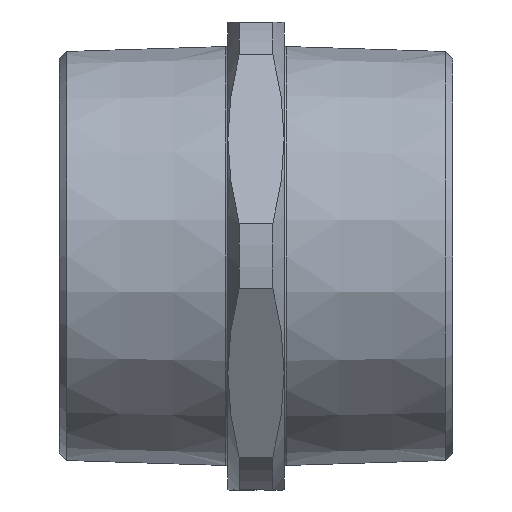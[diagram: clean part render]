
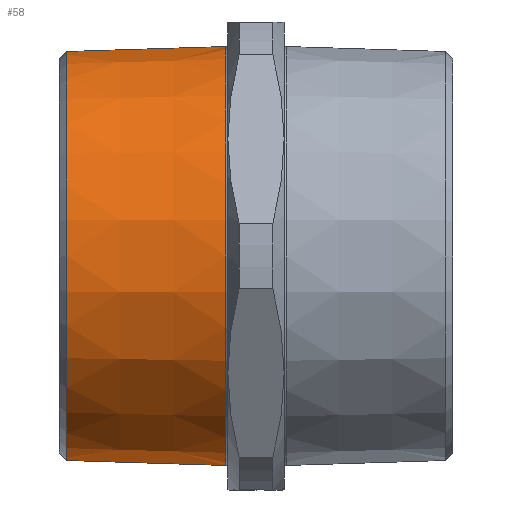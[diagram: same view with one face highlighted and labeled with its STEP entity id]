
A CAD part, front view. The second image highlights one B-rep face of the part: STEP entity #58.
In plain terms, the highlighted conical face has half-angle 1.79 degrees and reference radius 43.696 mm.
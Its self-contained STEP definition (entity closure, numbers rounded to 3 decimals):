
#58 = ADVANCED_FACE ( 'NONE', ( #1388 ), #1446, .T. ) ;
#106 = CARTESIAN_POINT ( 'NONE',  ( -82.4, 0., 43.696 ) ) ;
#123 = CARTESIAN_POINT ( 'NONE',  ( -48.484, 0., 44.756 ) ) ;
#250 = ORIENTED_EDGE ( 'NONE', *, *, #1091, .T. ) ;
#252 = ORIENTED_EDGE ( 'NONE', *, *, #1141, .T. ) ;
#253 = ORIENTED_EDGE ( 'NONE', *, *, #1112, .F. ) ;
#257 = ORIENTED_EDGE ( 'NONE', *, *, #1113, .T. ) ;
#340 = CARTESIAN_POINT ( 'NONE',  ( -48.484, 0., -44.756 ) ) ;
#343 = CARTESIAN_POINT ( 'NONE',  ( -82.4, 0., -43.696 ) ) ;
#364 = CARTESIAN_POINT ( 'NONE',  ( -82.4, 0., 0. ) ) ;
#368 = DIRECTION ( 'NONE',  ( 1., 0., 0. ) ) ;
#372 = DIRECTION ( 'NONE',  ( 0., 0., -1. ) ) ;
#735 = DIRECTION ( 'NONE',  ( 0., 0., -1. ) ) ;
#736 = DIRECTION ( 'NONE',  ( 1., 0., 0. ) ) ;
#737 = CARTESIAN_POINT ( 'NONE',  ( -82.4, 0., 0. ) ) ;
#818 = DIRECTION ( 'NONE',  ( 1., 0., -0.031 ) ) ;
#819 = CARTESIAN_POINT ( 'NONE',  ( -82.4, 0., -43.696 ) ) ;
#820 = DIRECTION ( 'NONE',  ( 1., 0., 0.031 ) ) ;
#826 = CARTESIAN_POINT ( 'NONE',  ( -82.4, 0., 43.696 ) ) ;
#872 = DIRECTION ( 'NONE',  ( 0., 0., -1. ) ) ;
#873 = DIRECTION ( 'NONE',  ( -1., 0., 0. ) ) ;
#874 = CARTESIAN_POINT ( 'NONE',  ( -48.484, 0., 0. ) ) ;
#988 = AXIS2_PLACEMENT_3D ( 'NONE', #737, #736, #735 ) ;
#1022 = AXIS2_PLACEMENT_3D ( 'NONE', #874, #873, #872 ) ;
#1047 = AXIS2_PLACEMENT_3D ( 'NONE', #364, #368, #372 ) ;
#1091 = EDGE_CURVE ( 'NONE', #1285, #1290, #1435, .T. ) ;
#1112 = EDGE_CURVE ( 'NONE', #1419, #1290, #1517, .T. ) ;
#1113 = EDGE_CURVE ( 'NONE', #1267, #1285, #1520, .T. ) ;
#1141 = EDGE_CURVE ( 'NONE', #1419, #1267, #1554, .T. ) ;
#1267 = VERTEX_POINT ( 'NONE', #343 ) ;
#1285 = VERTEX_POINT ( 'NONE', #340 ) ;
#1290 = VERTEX_POINT ( 'NONE', #123 ) ;
#1388 = FACE_OUTER_BOUND ( 'NONE', #1398, .T. ) ;
#1398 = EDGE_LOOP ( 'NONE', ( #253, #252, #257, #250 ) ) ;
#1419 = VERTEX_POINT ( 'NONE', #106 ) ;
#1435 = CIRCLE ( 'NONE', #1022, 44.756 ) ;
#1446 = CONICAL_SURFACE ( 'NONE', #1047, 43.696, 0.031 ) ;
#1517 = LINE ( 'NONE', #826, #1521 ) ;
#1520 = LINE ( 'NONE', #819, #1523 ) ;
#1521 = VECTOR ( 'NONE', #820, 1000. ) ;
#1523 = VECTOR ( 'NONE', #818, 1000. ) ;
#1554 = CIRCLE ( 'NONE', #988, 43.696 ) ;
